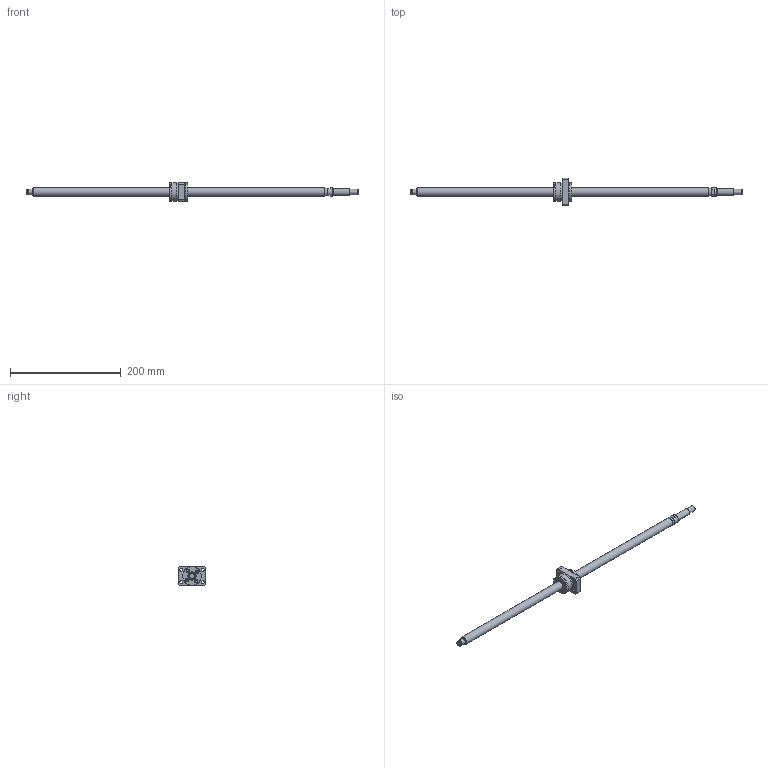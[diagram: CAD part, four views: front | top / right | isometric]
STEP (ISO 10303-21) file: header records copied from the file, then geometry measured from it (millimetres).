
FILE_DESCRIPTION(/* description */ ('STEP AP214'),/* implementation_level */ '2;1');
FILE_NAME(/* name */ 'SG1505 -528R600C5B0X(247.5)',/* time_stamp */ '2026-07-24T21:02:40+02:00',/* author */ ('License CC BY-ND 4.0'),/* organization */ ('CADENAS'),/* preprocessor_version */ 'ST-DEVELOPER v20',/* originating_system */ 'PARTsolutions',/* authorisation */ ' ');
FILE_SCHEMA (('AUTOMOTIVE_DESIGN {1 0 10303 214 3 1 1}'));
Length unit declared in the file: millimetre
Products named in the file (3): SG1505 -528R600C5B0X(247.5); SG1505-528R600C5B_shaft; SG1505  C5_nut
Assembly tree (2 placements, depth 2):
  SG1505 -528R600C5B0X(247.5)
    SG1505-528R600C5B_shaft
    SG1505  C5_nut
Bounding box: 600 x 50 x 34 mm (x, y, z)
Volume: 131220.1 mm3; surface area: 37826.3 mm2
Topology: 2 solids, 2 shells, 121 faces, 268 edges, 173 vertices
Faces by surface type: plane 76, cylinder 36, cone 8, torus 1
Full cylindrical faces by diameter (mm): 2 x1, 4.917 x1, 5.5 x8, 9.5 x4, 9.6 x1, 10 x3, 12 x1, 14.387 x1, 15 x3, 33.5 x3, 34 x2
Entity records: 3234 total; most frequent: DIRECTION 568, CARTESIAN_POINT 532, ORIENTED_EDGE 456, EDGE_CURVE 228, AXIS2_PLACEMENT_3D 217, EDGE_LOOP 192, FACE_BOUND 192, VERTEX_POINT 170
